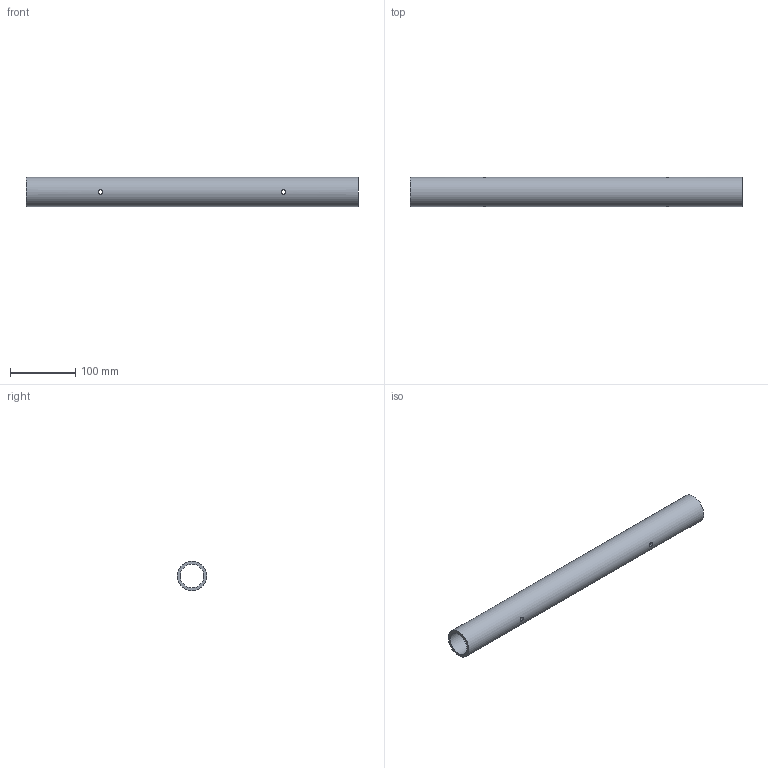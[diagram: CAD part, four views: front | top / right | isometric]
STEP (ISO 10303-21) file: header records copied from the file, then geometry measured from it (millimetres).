
FILE_DESCRIPTION(/* description */ (''),/* implementation_level */ '2;1');
FILE_NAME(/* name */ '2020TOMO-TELAIO-ASSY.00_v12-Part_12.stp',/* time_stamp */ '2022-05-16T13:36:54+02:00',/* author */ (''),/* organization */ (''),/* preprocessor_version */ 'ST-DEVELOPER v18.102',/* originating_system */ 'SIEMENS PLM Software NX 2000',/* authorisation */ '');
FILE_SCHEMA (('AUTOMOTIVE_DESIGN { 1 0 10303 214 3 1 1 1 }'));
Length unit declared in the file: millimetre
Products named in the file (1): turc3144724Fyy7t
Bounding box: 510 x 45 x 45 mm (x, y, z)
Volume: 291307.6 mm3; surface area: 131014 mm2
Topology: 1 solids, 1 shells, 8 faces, 22 edges, 16 vertices
Faces by surface type: cylinder 6, plane 2
Full cylindrical faces by diameter (mm): 7 x4, 36 x1, 45 x1
Entity records: 688 total; most frequent: CARTESIAN_POINT 489, DIRECTION 26, FACE_BOUND 24, EDGE_LOOP 24, ORIENTED_EDGE 24, AXIS2_PLACEMENT_3D 13, VERTEX_POINT 12, EDGE_CURVE 12
